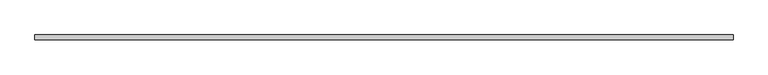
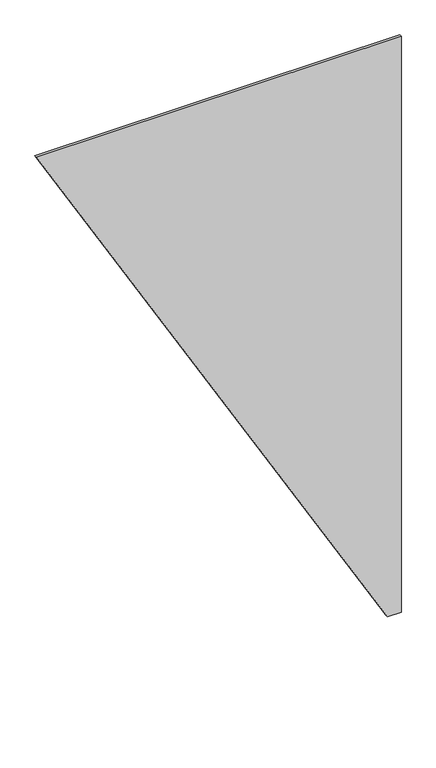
"""IFC4 building model written with IfcOpenShell, lengths in millimetres: plate geometry, 系統嵌板 : 玻璃 1.0cm."""

import ifcopenshell
import ifcopenshell.guid

model = None  # the IFC model being written
_history = None  # IfcOwnerHistory: only IFC2X3 demands one
_inside = {}  # id of a spatial element -> (the spatial element, [elements in it])
_under = {}  # id of a project, library or spatial element -> (it, [spatial elements below it])
_declared = {}  # id of a project -> (the project, [libraries it declares])
_typed = {}  # id of a type object -> (the type object, [elements of that type])
_made_of = {}  # id of a material, layer set ... -> (it, [elements and type objects made of it])


def new_model(schema):
    """Start an empty IFC model of exactly this schema.

    Asked for "IFC4X3", IfcOpenShell would pick the latest addendum, in which some entities
    have other attributes; the version numbers below select the first issue.
    IFC2X3 requires an IfcOwnerHistory on every rooted entity: one is made here for all.
    """
    global model, _history
    if schema == "IFC4X3":
        model = ifcopenshell.file(schema_version=(4, 3, 0, 0))
    else:
        model = ifcopenshell.file(schema=schema)
    _inside.clear()
    _under.clear()
    _declared.clear()
    _typed.clear()
    _made_of.clear()
    _history = None
    if model.schema == "IFC2X3":
        org = make("IfcOrganization", Name="unknown")
        user = make(
            "IfcPersonAndOrganization",
            ThePerson=make("IfcPerson", FamilyName="unknown"),
            TheOrganization=org,
        )
        app = make(
            "IfcApplication",
            ApplicationDeveloper=org,
            Version="unknown",
            ApplicationFullName="unknown",
            ApplicationIdentifier="unknown",
        )
        _history = make(
            "IfcOwnerHistory",
            OwningUser=user,
            OwningApplication=app,
            ChangeAction="ADDED",
            CreationDate=0,
        )
    return model


def make(cls, **values):
    """One entity of the class cls with the attributes given. An attribute that is None is left unset."""
    return model.create_entity(
        cls, **{name: value for name, value in values.items() if value is not None}
    )


def rooted(cls, **values):
    """An entity with a GlobalId (a new one), such as an element, a storey or a relation."""
    return make(cls, GlobalId=ifcopenshell.guid.new(), OwnerHistory=_history, **values)


def si_unit(unit_type, name, prefix=None):
    """IfcSIUnit, for example si_unit("LENGTHUNIT", "METRE", prefix="MILLI")."""
    return make("IfcSIUnit", UnitType=unit_type, Prefix=prefix, Name=name)


def assignment(units):
    """IfcUnitAssignment: the units of a project."""
    return None if units is None else make("IfcUnitAssignment", Units=units)


def point(xyz):
    """IfcCartesianPoint."""
    return None if xyz is None else make("IfcCartesianPoint", Coordinates=xyz)


def direction(xyz):
    """IfcDirection."""
    return None if xyz is None else make("IfcDirection", DirectionRatios=xyz)


def frame(location, z_axis=None, x_axis=None):
    """IfcAxis2Placement3D, a coordinate frame: its origin and axes. An axis left out is left unset."""
    return make(
        "IfcAxis2Placement3D",
        Location=point(location),
        Axis=direction(z_axis),
        RefDirection=direction(x_axis),
    )


def origin():
    """The frame at (0, 0, 0) with its axes left unset."""
    return frame((0.0, 0.0, 0.0))


def place(relative_to, where):
    """IfcLocalPlacement: puts the frame where relative to a parent placement (None: the world)."""
    return make(
        "IfcLocalPlacement", PlacementRelTo=relative_to, RelativePlacement=where
    )


def context(
    kind, dimensions, precision=None, world=None, true_north=None, identifier=None
):
    """IfcGeometricRepresentationContext, for example the 3D "Model" context."""
    return make(
        "IfcGeometricRepresentationContext",
        ContextIdentifier=identifier,
        ContextType=kind,
        CoordinateSpaceDimension=dimensions,
        Precision=precision,
        WorldCoordinateSystem=world,
        TrueNorth=true_north,
    )


def project(units=None, contexts=None):
    """IfcProject with its units and contexts."""
    return rooted(
        "IfcProject",
        Name="project",
        RepresentationContexts=contexts,
        UnitsInContext=assignment(units),
    )


def spatial(cls, under=None, at=None, **own):
    """A site, building, storey or space (cls), placed at a placement, below another one or the project."""
    s = rooted(cls, ObjectPlacement=at, **own)
    if under is not None:
        _under.setdefault(under.id(), (under, []))[1].append(s)
    return s


def polyline(points):
    """IfcPolyline through the points."""
    return make("IfcPolyline", Points=[point(p) for p in points])


def outline(outer, holes=None, kind="AREA"):
    """IfcArbitraryClosedProfileDef: a profile drawn as a closed curve; with holes, ...WithVoids."""
    if holes is None:
        return make("IfcArbitraryClosedProfileDef", ProfileType=kind, OuterCurve=outer)
    return make(
        "IfcArbitraryProfileDefWithVoids",
        ProfileType=kind,
        OuterCurve=outer,
        InnerCurves=holes,
    )


def extrude(swept, where, along, depth):
    """IfcExtrudedAreaSolid: the profile swept, set in the frame where, extruded along a direction by depth."""
    return make(
        "IfcExtrudedAreaSolid",
        SweptArea=swept,
        Position=where,
        ExtrudedDirection=direction(along),
        Depth=depth,
    )


def shape(context_of_items, identifier, shape_type, items):
    """IfcShapeRepresentation: the items that make up one representation, for example the "Body"."""
    return make(
        "IfcShapeRepresentation",
        ContextOfItems=context_of_items,
        RepresentationIdentifier=identifier,
        RepresentationType=shape_type,
        Items=items,
    )


def source(mapping_origin, context_of_items, identifier, shape_type, items):
    """IfcRepresentationMap: a shape defined once, which mapped items show again and again."""
    return make(
        "IfcRepresentationMap",
        MappingOrigin=mapping_origin,
        MappedRepresentation=shape(context_of_items, identifier, shape_type, items),
    )


def transform(
    local_origin,
    x_axis=None,
    y_axis=None,
    z_axis=None,
    scale=None,
    scale2=None,
    scale3=None,
    uniform=True,
):
    """IfcCartesianTransformationOperator3D, or its non-uniform kind. x_axis, y_axis, z_axis: its Axis1, 2, 3."""
    if uniform:
        return make(
            "IfcCartesianTransformationOperator3D",
            Axis1=direction(x_axis),
            Axis2=direction(y_axis),
            LocalOrigin=point(local_origin),
            Scale=scale,
            Axis3=direction(z_axis),
        )
    return make(
        "IfcCartesianTransformationOperator3DnonUniform",
        Axis1=direction(x_axis),
        Axis2=direction(y_axis),
        LocalOrigin=point(local_origin),
        Scale=scale,
        Axis3=direction(z_axis),
        Scale2=scale2,
        Scale3=scale3,
    )


def mapped(mapping_source, mapping_target):
    """IfcMappedItem: shows the shape of a source again, moved by a transform."""
    return make(
        "IfcMappedItem", MappingSource=mapping_source, MappingTarget=mapping_target
    )


def made_of(thing, what):
    """Note that an element or type object is made of a material, layer set ...; save() writes the relation."""
    if what is not None:
        _made_of.setdefault(what.id(), (what, []))[1].append(thing)
    return thing


def element(
    cls,
    number,
    at=None,
    inside=None,
    cuts=None,
    type_object=None,
    material=None,
    context=None,
    identifier="Body",
    shape_type=None,
    held_by="IfcProductDefinitionShape",
    body=None,
    shapes=None,
    **own,
):
    """One element of the class cls, such as IfcWall. Its Tag is "e" and its number.

    at: its placement. inside: the storey or other place that contains it. cuts: it is an
    opening in that element (IfcRelVoidsElement). A single representation is given by context,
    identifier, shape_type and body (its items); several are given by shapes. held_by: the class
    of the entity that holds the representations. save() writes the other relations.
    """
    e = rooted(cls, Tag="e%d" % number, ObjectPlacement=at, **own)
    if body is not None:
        shapes = [shape(context, identifier, shape_type, body)]
    if shapes is not None:
        e.Representation = make(held_by, Representations=shapes)
    if inside is not None:
        _inside.setdefault(inside.id(), (inside, []))[1].append(e)
    if cuts is not None:
        rooted(
            "IfcRelVoidsElement", RelatingBuildingElement=cuts, RelatedOpeningElement=e
        )
    if type_object is not None:
        _typed.setdefault(type_object.id(), (type_object, []))[1].append(e)
    return made_of(e, material)


def aggregate(whole, parts):
    """IfcRelAggregates: a whole, such as a stair, and the parts it consists of."""
    return rooted("IfcRelAggregates", RelatingObject=whole, RelatedObjects=parts)


def save(model, path):
    """Write the relations noted so far, then the file.

    IfcRelAggregates (storeys below a building ...), IfcRelContainedInSpatialStructure (elements
    in a storey), IfcRelDefinesByType, IfcRelAssociatesMaterial and IfcRelDeclares: one each for
    every whole, place, type object, material and project.
    """
    for whole, parts in _under.values():
        aggregate(whole, parts)
    for where, things in _inside.values():
        rooted(
            "IfcRelContainedInSpatialStructure",
            RelatedElements=things,
            RelatingStructure=where,
        )
    for kind, things in _typed.values():
        rooted("IfcRelDefinesByType", RelatedObjects=things, RelatingType=kind)
    for what, things in _made_of.values():
        rooted("IfcRelAssociatesMaterial", RelatedObjects=things, RelatingMaterial=what)
    for by, libraries in _declared.values():
        rooted("IfcRelDeclares", RelatingContext=by, RelatedDefinitions=libraries)
    model.write(path)


def plate_46e54e51(model_context):
    return source(origin(), model_context, "Body", "SweptSolid", [
        extrude(outline(polyline([(0.0, 693.375673), (0.0, 750.0), (2500.0, 750.0), (2500.0, -750.0), (0.0, 693.375673)])), frame((0.0, -5.0, 0.0), z_axis=(0.0, 1.0, 0.0), x_axis=(0.0, 0.0, 1.0)), (0.0, 0.0, 1.0), 10.0),
    ])


if __name__ == "__main__":
    model = new_model("IFC4")
    model_context = context("Model", 3, world=origin())
    ifc_project = project(units=[si_unit("LENGTHUNIT", "METRE", prefix="MILLI")], contexts=[model_context])
    site = spatial("IfcSite", under=ifc_project)
    building = spatial("IfcBuilding", under=site)
    placement = place(None, origin())
    plate_shape = plate_46e54e51(model_context)
    element("IfcPlate", 1, ObjectType="系統嵌板 : 玻璃 1.0cm", at=placement, inside=building, context=model_context, shape_type="MappedRepresentation", body=[
        mapped(plate_shape, transform((0.0, 0.0, 0.0), x_axis=(1.0, 0.0, 0.0), y_axis=(0.0, 1.0, 0.0), z_axis=(0.0, 0.0, 1.0))),
    ])
    save(model, "model.ifc")
